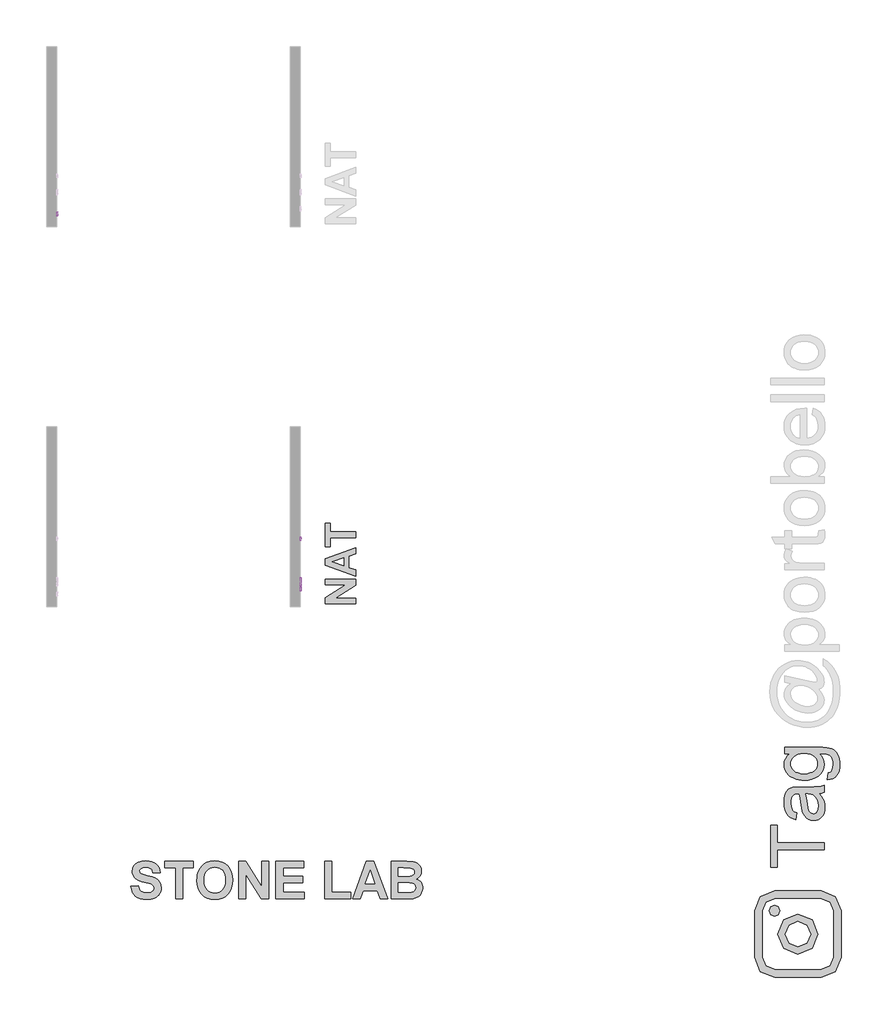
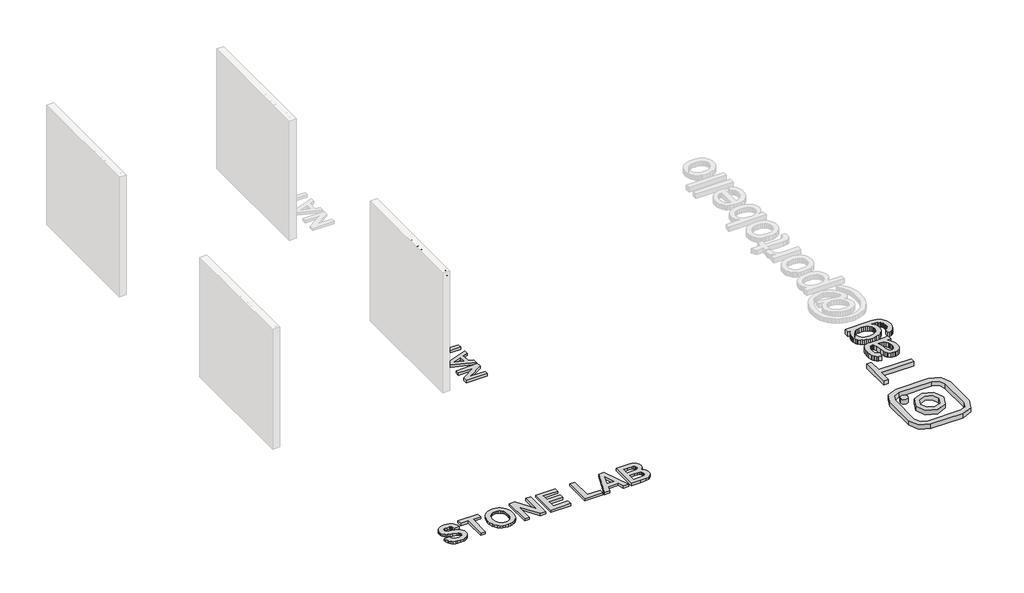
# One storey, part 2 of 9: 8 proxies.
"""IFC4 building model written with IfcOpenShell, lengths in millimetres."""

from ifc_helpers import new_model, si_unit, frame, origin, origin_with_axes, place, context, project, spatial, polyline, outline, extrude, transform, mapped, element, save
from components import generic_models_d67f6705

model = new_model("IFC4")

# Units and contexts
model_context = context("Model", 3, world=origin())
ifc_project = project(units=[si_unit("LENGTHUNIT", "METRE", prefix="MILLI")], contexts=[model_context])

# Site, building, storey
site = spatial("IfcSite", under=ifc_project)
building = spatial("IfcBuilding", under=site)
storey = spatial("IfcBuildingStorey", under=building, Name="PORTOBELLO - SHOWROOM", Elevation=0.0)

# Proxies
placement = place(None, origin())
generic_models_shape = generic_models_d67f6705(model_context)
element("IfcBuildingElementProxy", 1, Name="Blks_Instagram1 : Único", ObjectType="Blks_Instagram1 : Único", at=placement, inside=storey, context=model_context, shape_type="MappedRepresentation", body=[
    mapped(generic_models_shape, transform((-6000.4764951, -12631.2406298, 0.0), x_axis=(-1.0, 0.0, 0.0), y_axis=(0.0, -1.0, 0.0), z_axis=(0.0, 0.0, 1.0))),
])
element("IfcBuildingElementProxy", 2, Name="10mm Arial", ObjectType="10mm Arial", at=placement, inside=storey, context=model_context, shape_type="SweptSolid", body=[
    extrude(outline(polyline([(-7639.686688, 2567.3783476), (-7636.3389619, 2589.5922887), (-7626.2957834, 2606.3983645), (-7610.9612356, 2616.9749719), (-7591.7394013, 2620.5005077), (-7578.5630945, 2618.8450387), (-7566.7479511, 2613.8786317), (-7556.9377646, 2605.9507747), (-7549.7763284, 2595.4109556), (-7545.3985327, 2582.7680777), (-7543.9392674, 2568.5310445), (-7545.4751747, 2554.1039389), (-7550.0828967, 2541.2832514), (-7557.5079817, 2530.7250381), (-7567.4959778, 2523.0853553), (-7579.2099537, 2518.4500422), (-7591.8129777, 2516.9049378), (-7605.1916196, 2518.6125234), (-7617.0742081, 2523.7352802), (-7626.8598691, 2531.81029), (-7633.9477289, 2542.3746346), (-7639.686688, 2567.3783476)]), holes=[polyline([(-7627.1296493, 2567.2557202), (-7624.6188546, 2551.5410277), (-7617.0864708, 2539.5664687), (-7605.7649024, 2531.9880996), (-7591.8865541, 2529.4619766), (-7577.8058707, 2532.0126251), (-7566.4659082, 2539.6645706), (-7558.9887067, 2552.0070115), (-7556.4963062, 2568.6291463), (-7560.7637373, 2589.3531654), (-7573.234937, 2603.0751638), (-7591.6658249, 2607.9434689), (-7605.1732255, 2605.5982212), (-7616.6572751, 2598.562478), (-7624.5115557, 2586.0452931), (-7627.1296493, 2567.2557202)])]), frame((-13466.0063329, 0.0, 0.0), z_axis=(1.0, 0.0, 0.0), x_axis=(0.0, 1.0, 0.0)), (0.0, 0.0, 1.0), 20.0),
    extrude(outline(polyline([(-7484.2933333, 2518.4745677), (-7484.2933333, 2579.6901317), (-7495.2807422, 2579.6901317), (-7495.2807422, 2592.2471704), (-7484.2933333, 2592.2471704), (-7484.2933333, 2599.6783867), (-7482.9689581, 2610.1507609), (-7476.5432859, 2617.6310281), (-7463.8881453, 2620.5005077), (-7452.4347525, 2619.1270815), (-7454.2741625, 2607.3548577), (-7461.509175, 2607.9434689), (-7469.4186379, 2605.8588043), (-7471.7362945, 2598.0842314), (-7471.7362945, 2592.2471704), (-7457.6096259, 2592.2471704), (-7457.6096259, 2579.6901317), (-7471.7362945, 2579.6901317), (-7471.7362945, 2518.4745677), (-7484.2933333, 2518.4745677)])), frame((-13466.0063329, 0.0, 0.0), z_axis=(1.0, 0.0, 0.0), x_axis=(0.0, 1.0, 0.0)), (0.0, 0.0, 1.0), 20.0),
    extrude(outline(polyline([(-7525.1037093, 2518.4745677), (-7525.1037093, 2579.6901317), (-7536.0911182, 2579.6901317), (-7536.0911182, 2592.2471704), (-7525.1037093, 2592.2471704), (-7525.1037093, 2599.6783867), (-7523.7793341, 2610.1507609), (-7517.3536619, 2617.6310281), (-7504.6985213, 2620.5005077), (-7493.2451285, 2619.1270815), (-7495.0845385, 2607.3548577), (-7502.319551, 2607.9434689), (-7510.2290139, 2605.8588043), (-7512.5466705, 2598.0842314), (-7512.5466705, 2592.2471704), (-7498.4200019, 2592.2471704), (-7498.4200019, 2579.6901317), (-7512.5466705, 2579.6901317), (-7512.5466705, 2518.4745677), (-7525.1037093, 2518.4745677)])), frame((-13466.0063329, 0.0, 0.0), z_axis=(1.0, 0.0, 0.0), x_axis=(0.0, 1.0, 0.0)), (0.0, 0.0, 1.0), 20.0),
    extrude(outline(polyline([(-7387.8346741, 2518.4745677), (-7415.22962, 2618.9308778), (-7402.2801738, 2618.9308778), (-7386.3876716, 2552.9083224), (-7381.4825783, 2532.5276599), (-7376.2341285, 2550.5538776), (-7356.3194499, 2618.9308778), (-7337.65557, 2618.9308778), (-7323.1855448, 2569.3649103), (-7312.4188651, 2532.5276599), (-7307.6609246, 2552.3197112), (-7291.6457951, 2618.9308778), (-7278.6718234, 2618.9308778), (-7306.0422439, 2518.4745677), (-7319.4821994, 2518.4745677), (-7343.5907328, 2595.9750413), (-7346.9507217, 2606.790772), (-7350.7276435, 2593.7677493), (-7372.6779359, 2518.4745677), (-7387.8346741, 2518.4745677)])), frame((-13466.0063329, 0.0, 0.0), z_axis=(1.0, 0.0, 0.0), x_axis=(0.0, 1.0, 0.0)), (0.0, 0.0, 1.0), 20.0),
    extrude(outline(polyline([(-7267.6844145, 2518.4745677), (-7267.6844145, 2618.9308778), (-7255.1273757, 2618.9308778), (-7255.1273757, 2581.9955255), (-7245.3355833, 2590.8614816), (-7233.2751852, 2593.8168003), (-7219.1730421, 2590.5917015), (-7210.6136543, 2581.6766944), (-7208.0384803, 2565.1710556), (-7208.0384803, 2518.4745677), (-7220.5955191, 2518.4745677), (-7220.5955191, 2563.8712059), (-7224.5931701, 2577.1149577), (-7235.9239356, 2581.2597615), (-7246.2123687, 2578.4638583), (-7253.0794993, 2570.8854892), (-7255.1273757, 2557.6662629), (-7255.1273757, 2518.4745677), (-7267.6844145, 2518.4745677)])), frame((-13466.0063329, 0.0, 0.0), z_axis=(1.0, 0.0, 0.0), x_axis=(0.0, 1.0, 0.0)), (0.0, 0.0, 1.0), 20.0),
    extrude(outline(polyline([(-13446.0063329, -7178.2155133), (-13446.0063329, -7190.772552), (-13466.0063329, -7190.772552), (-13466.0063329, -7178.2155133), (-13446.0063329, -7178.2155133)])), frame((0.0, 0.0, 2606.373839), z_axis=(0.0, 0.0, 1.0), x_axis=(1.0, 0.0, 0.0)), (0.0, 0.0, 1.0), 12.5570388),
    extrude(outline(polyline([(-13446.0063329, -7178.2155133), (-13446.0063329, -7190.772552), (-13466.0063329, -7190.772552), (-13466.0063329, -7178.2155133), (-13446.0063329, -7178.2155133)])), frame((0.0, 0.0, 2518.4745677), z_axis=(0.0, 0.0, 1.0), x_axis=(1.0, 0.0, 0.0)), (0.0, 0.0, 1.0), 73.7726028),
    extrude(outline(polyline([(-7132.6962477, 2528.9469418), (-7131.1266179, 2518.1066857), (-7140.5198715, 2516.9049378), (-7151.0412966, 2518.9896025), (-7156.2897464, 2524.4587815), (-7157.8103253, 2538.7080774), (-7157.8103253, 2579.6901317), (-7167.2281043, 2579.6901317), (-7167.2281043, 2592.2471704), (-7157.8103253, 2592.2471704), (-7157.8103253, 2610.1752863), (-7145.2532865, 2617.5574517), (-7145.2532865, 2592.2471704), (-7132.6962477, 2592.2471704), (-7132.6962477, 2579.6901317), (-7145.2532865, 2579.6901317), (-7145.2532865, 2539.0759594), (-7144.5910989, 2532.6012363), (-7142.4451206, 2530.3081052), (-7138.1654267, 2529.4619766), (-7132.6962477, 2528.9469418)])), frame((-13466.0063329, 0.0, 0.0), z_axis=(1.0, 0.0, 0.0), x_axis=(0.0, 1.0, 0.0)), (0.0, 0.0, 1.0), 20.0),
    extrude(outline(polyline([(-7068.4885768, 2540.4493855), (-7056.1767927, 2538.8797557), (-7060.6128365, 2529.602998), (-7067.6914992, 2522.6684224), (-7077.2533654, 2518.345809), (-7089.1390195, 2516.9049378), (-7103.8726934, 2519.391207), (-7115.2095902, 2526.8500144), (-7122.4384714, 2538.7969822), (-7124.8480985, 2554.7477324), (-7122.413946, 2571.2349771), (-7115.1114884, 2583.5651553), (-7103.9278757, 2591.253889), (-7089.850258, 2593.8168003), (-7076.2110331, 2591.2600204), (-7065.312529, 2583.5896808), (-7058.1664212, 2571.2840281), (-7055.7843853, 2554.8213088), (-7055.8579617, 2551.4367944), (-7112.2910597, 2551.4367944), (-7110.1174903, 2542.0374095), (-7105.0683099, 2535.1273593), (-7097.7811807, 2530.8783223), (-7088.8937648, 2529.4619766), (-7076.5819807, 2532.0862015), (-7068.4885768, 2540.4493855)]), holes=[polyline([(-7112.2910597, 2563.9938332), (-7068.341424, 2563.9938332), (-7073.3691446, 2575.3736496), (-7080.6899964, 2579.7882335), (-7089.899309, 2581.2597615), (-7105.3626155, 2576.5631347), (-7110.2278549, 2571.0724959), (-7112.2910597, 2563.9938332)])]), frame((-13466.0063329, 0.0, 0.0), z_axis=(1.0, 0.0, 0.0), x_axis=(0.0, 1.0, 0.0)), (0.0, 0.0, 1.0), 20.0),
    extrude(outline(polyline([(-7002.4169705, 2518.4745677), (-7002.4169705, 2618.9308778), (-6980.8836111, 2618.9308778), (-6960.2822193, 2548.1258565), (-6956.1128901, 2533.3370003), (-6951.6247297, 2549.3521298), (-6931.4157454, 2618.9308778), (-6909.8088096, 2618.9308778), (-6909.8088096, 2518.4745677), (-6922.3658484, 2518.4745677), (-6922.3658484, 2606.373839), (-6947.6025532, 2518.4745677), (-6964.5987014, 2518.4745677), (-6989.8599317, 2606.373839), (-6989.8599317, 2518.4745677), (-7002.4169705, 2518.4745677)])), frame((-13466.0063329, 0.0, 0.0), z_axis=(1.0, 0.0, 0.0), x_axis=(0.0, 1.0, 0.0)), (0.0, 0.0, 1.0), 20.0),
    extrude(outline(polyline([(-13446.0063329, -6876.8465828), (-13446.0063329, -6889.4036216), (-13466.0063329, -6889.4036216), (-13466.0063329, -6876.8465828), (-13446.0063329, -6876.8465828)])), frame((0.0, 0.0, 2606.373839), z_axis=(0.0, 0.0, 1.0), x_axis=(1.0, 0.0, 0.0)), (0.0, 0.0, 1.0), 12.5570388),
    extrude(outline(polyline([(-13446.0063329, -6876.8465828), (-13446.0063329, -6889.4036216), (-13466.0063329, -6889.4036216), (-13466.0063329, -6876.8465828), (-13446.0063329, -6876.8465828)])), frame((0.0, 0.0, 2518.4745677), z_axis=(0.0, 0.0, 1.0), x_axis=(1.0, 0.0, 0.0)), (0.0, 0.0, 1.0), 73.7726028),
    extrude(outline(polyline([(-6865.8591739, 2518.4745677), (-6839.0283137, 2555.5815982), (-6864.2895441, 2592.2471704), (-6849.2309077, 2592.2471704), (-6837.0417509, 2574.5643092), (-6831.3273173, 2566.2501761), (-6826.3731731, 2573.0682557), (-6812.4917591, 2592.2471704), (-6797.3840719, 2592.2471704), (-6823.9206265, 2555.5570728), (-6798.3650905, 2518.4745677), (-6813.4482523, 2518.4745677), (-6828.8502452, 2540.792742), (-6831.6461483, 2544.8884949), (-6850.7514866, 2518.4745677), (-6865.8591739, 2518.4745677)])), frame((-13466.0063329, 0.0, 0.0), z_axis=(1.0, 0.0, 0.0), x_axis=(0.0, 1.0, 0.0)), (0.0, 0.0, 1.0), 20.0),
])
element("IfcBuildingElementProxy", 3, Name="10mm Arial", ObjectType="10mm Arial", at=placement, inside=storey, context=model_context, shape_type="SweptSolid", body=[
    extrude(outline(polyline([(-7575.3318643, 2396.0316064), (-7575.3318643, 2383.4745677), (-7641.2563179, 2383.4745677), (-7639.9074172, 2392.1320573), (-7632.2677345, 2405.4616482), (-7616.5346478, 2420.0175125), (-7594.8663983, 2440.9377353), (-7589.4585329, 2455.1625058), (-7594.5720927, 2466.6772122), (-7607.9262091, 2471.373839), (-7621.8444113, 2466.7875768), (-7627.1296493, 2454.1079107), (-7639.686688, 2455.6775406), (-7636.6424645, 2467.8237778), (-7630.0604425, 2476.6958652), (-7620.2839785, 2482.1221247), (-7607.656429, 2483.9308778), (-7594.936909, 2481.9197896), (-7585.1788391, 2475.8865249), (-7578.9708304, 2466.873416), (-7576.9014942, 2455.9227952), (-7579.1333116, 2444.0156813), (-7586.5522652, 2431.7038972), (-7604.5416947, 2414.4992826), (-7618.9871944, 2402.4204904), (-7624.6525772, 2396.0316064), (-7575.3318643, 2396.0316064)])), frame((-13466.0063329, 0.0, 0.0), z_axis=(1.0, 0.0, 0.0), x_axis=(0.0, 1.0, 0.0)), (0.0, 0.0, 1.0), 20.0),
    extrude(outline(polyline([(-7562.7748256, 2432.8933823), (-7559.0837429, 2461.7966444), (-7548.1208594, 2478.4616988), (-7529.8125988, 2483.9308778), (-7515.1463699, 2480.6935163), (-7505.0173523, 2471.3615763), (-7499.1312404, 2456.4991437), (-7496.850372, 2432.8933823), (-7500.5046665, 2404.1127476), (-7511.4307618, 2387.410905), (-7519.6621214, 2383.2814296), (-7529.8125988, 2381.9049378), (-7542.8601469, 2384.2961708), (-7552.7684353, 2391.4698697), (-7560.273228, 2408.4598865), (-7562.7748256, 2432.8933823)]), holes=[polyline([(-7550.2177868, 2432.9179078), (-7548.7462588, 2413.1657104), (-7544.3316749, 2401.7337774), (-7537.7588499, 2396.2799268), (-7529.8125988, 2394.4619766), (-7521.8663477, 2396.2860581), (-7515.2935227, 2401.7583028), (-7510.8789388, 2413.1963672), (-7509.4074108, 2432.9179078), (-7510.8298878, 2452.2255812), (-7515.097319, 2463.746419), (-7521.6578812, 2469.466984), (-7529.9597516, 2471.373839), (-7537.8201636, 2469.6938446), (-7544.1354711, 2464.6538613), (-7548.6972079, 2452.4156536), (-7550.2177868, 2432.9179078)])]), frame((-13466.0063329, 0.0, 0.0), z_axis=(1.0, 0.0, 0.0), x_axis=(0.0, 1.0, 0.0)), (0.0, 0.0, 1.0), 20.0),
    extrude(outline(polyline([(-7490.5718526, 2383.4745677), (-7463.7409925, 2420.5815982), (-7489.0022228, 2457.2471704), (-7473.9435865, 2457.2471704), (-7461.7544297, 2439.5643092), (-7456.039996, 2431.2501761), (-7451.0858518, 2438.0682557), (-7437.2044379, 2457.2471704), (-7422.0967506, 2457.2471704), (-7448.6333052, 2420.5570728), (-7423.0777693, 2383.4745677), (-7438.1609311, 2383.4745677), (-7453.5629239, 2405.792742), (-7456.3588271, 2409.8884949), (-7475.4641654, 2383.4745677), (-7490.5718526, 2383.4745677)])), frame((-13466.0063329, 0.0, 0.0), z_axis=(1.0, 0.0, 0.0), x_axis=(0.0, 1.0, 0.0)), (0.0, 0.0, 1.0), 20.0),
    extrude(outline(polyline([(-7350.8747963, 2396.0316064), (-7350.8747963, 2383.4745677), (-7416.7992499, 2383.4745677), (-7415.4503492, 2392.1320573), (-7407.8106665, 2405.4616482), (-7392.0775798, 2420.0175125), (-7370.4093303, 2440.9377353), (-7365.001465, 2455.1625058), (-7370.1150247, 2466.6772122), (-7383.4691411, 2471.373839), (-7397.3873433, 2466.7875768), (-7402.6725813, 2454.1079107), (-7415.22962, 2455.6775406), (-7412.1853965, 2467.8237778), (-7405.6033745, 2476.6958652), (-7395.8269105, 2482.1221247), (-7383.199361, 2483.9308778), (-7370.479841, 2481.9197896), (-7360.7217711, 2475.8865249), (-7354.5137624, 2466.873416), (-7352.4444262, 2455.9227952), (-7354.6762436, 2444.0156813), (-7362.0951972, 2431.7038972), (-7380.0846268, 2414.4992826), (-7394.5301264, 2402.4204904), (-7400.1955092, 2396.0316064), (-7350.8747963, 2396.0316064)])), frame((-13466.0063329, 0.0, 0.0), z_axis=(1.0, 0.0, 0.0), x_axis=(0.0, 1.0, 0.0)), (0.0, 0.0, 1.0), 20.0),
    extrude(outline(polyline([(-7338.3177576, 2432.8933823), (-7334.6266749, 2461.7966444), (-7323.6637914, 2478.4616988), (-7305.3555308, 2483.9308778), (-7290.6893019, 2480.6935163), (-7280.5602843, 2471.3615763), (-7274.6741724, 2456.4991437), (-7272.393304, 2432.8933823), (-7276.0475985, 2404.1127476), (-7286.9736938, 2387.410905), (-7295.2050534, 2383.2814296), (-7305.3555308, 2381.9049378), (-7318.4030789, 2384.2961708), (-7328.3113673, 2391.4698697), (-7335.81616, 2408.4598865), (-7338.3177576, 2432.8933823)]), holes=[polyline([(-7325.7607188, 2432.9179078), (-7324.2891908, 2413.1657104), (-7319.8746069, 2401.7337774), (-7313.3017819, 2396.2799268), (-7305.3555308, 2394.4619766), (-7297.4092797, 2396.2860581), (-7290.8364547, 2401.7583028), (-7286.4218708, 2413.1963672), (-7284.9503428, 2432.9179078), (-7286.3728199, 2452.2255812), (-7290.640251, 2463.746419), (-7297.2008132, 2469.466984), (-7305.5026836, 2471.373839), (-7313.3630956, 2469.6938446), (-7319.6784032, 2464.6538613), (-7324.2401399, 2452.4156536), (-7325.7607188, 2432.9179078)])]), frame((-13466.0063329, 0.0, 0.0), z_axis=(1.0, 0.0, 0.0), x_axis=(0.0, 1.0, 0.0)), (0.0, 0.0, 1.0), 20.0),
])
element("IfcBuildingElementProxy", 4, Name="10mm Arial", ObjectType="10mm Arial", at=placement, inside=storey, context=model_context, shape_type="SweptSolid", body=[
    extrude(outline(polyline([(-1938.1170582, 2408.5886452), (-1925.5600194, 2410.158275), (-1919.9191621, 2398.1775847), (-1909.2260588, 2394.4619766), (-1899.060253, 2396.8532096), (-1892.168597, 2403.2420935), (-1888.0605814, 2414.1559261), (-1886.2456969, 2428.7240531), (-1886.3192733, 2431.1765997), (-1896.3624517, 2421.6607188), (-1910.1335011, 2418.0064243), (-1921.5838282, 2420.2382417), (-1931.1150375, 2426.933694), (-1937.5437754, 2437.2773095), (-1939.686688, 2450.4536163), (-1937.4395422, 2464.0652501), (-1930.6981046, 2474.7338279), (-1920.5721527, 2481.6316153), (-1908.1714638, 2483.9308778), (-1890.2801361, 2478.682428), (-1877.968352, 2463.7218935), (-1873.7622345, 2435.6157091), (-1877.9560892, 2405.1182917), (-1883.1708165, 2395.1272299), (-1890.4272889, 2387.8401007), (-1899.4128066, 2383.3887285), (-1909.81467, 2381.9049378), (-1920.5506929, 2383.655443), (-1929.116212, 2388.9069585), (-1935.1065572, 2397.3283905), (-1938.1170582, 2408.5886452)]), holes=[polyline([(-1886.3192733, 2450.7479218), (-1887.6743053, 2459.2582587), (-1891.7394013, 2465.8065582), (-1898.0485775, 2469.9820188), (-1906.1358501, 2471.373839), (-1914.5235596, 2469.8747199), (-1921.2435373, 2465.3773625), (-1925.6581213, 2458.4949035), (-1927.1296493, 2449.8404796), (-1925.737829, 2442.0812352), (-1921.5623684, 2435.9222774), (-1915.0079375, 2431.9031666), (-1906.4792066, 2430.563463), (-1891.9969187, 2435.9222774), (-1887.7386846, 2442.3080957), (-1886.3192733, 2450.7479218)])]), frame((-17115.5080774, 0.0, 0.0), z_axis=(1.0, 0.0, 0.0), x_axis=(0.0, 1.0, 0.0)), (0.0, 0.0, 1.0), 20.0),
    extrude(outline(polyline([(-1867.4837151, 2383.4745677), (-1840.6528549, 2420.5815982), (-1865.9140853, 2457.2471704), (-1850.8554489, 2457.2471704), (-1838.6662921, 2439.5643092), (-1832.9518585, 2431.2501761), (-1827.9977143, 2438.0682557), (-1814.1163003, 2457.2471704), (-1799.0086131, 2457.2471704), (-1825.5451677, 2420.5570728), (-1799.9896317, 2383.4745677), (-1815.0727935, 2383.4745677), (-1830.4747864, 2405.792742), (-1833.2706896, 2409.8884949), (-1852.3760278, 2383.4745677), (-1867.4837151, 2383.4745677)])), frame((-17115.5080774, 0.0, 0.0), z_axis=(1.0, 0.0, 0.0), x_axis=(0.0, 1.0, 0.0)), (0.0, 0.0, 1.0), 20.0),
    extrude(outline(polyline([(-1792.1414825, 2410.158275), (-1779.5844437, 2411.7279049), (-1772.6559995, 2398.5086785), (-1759.6942905, 2394.4619766), (-1751.0858518, 2395.8537968), (-1744.4394504, 2400.0292574), (-1738.7740677, 2413.8125695), (-1744.3903995, 2426.798804), (-1758.6642209, 2431.9368892), (-1767.4688633, 2430.563463), (-1766.0709118, 2443.1205018), (-1764.0598235, 2442.973349), (-1749.8105276, 2446.5785926), (-1745.0648498, 2451.152592), (-1743.4829573, 2457.6641034), (-1748.0692195, 2467.4865526), (-1759.8904942, 2471.373839), (-1771.8589218, 2467.4497644), (-1778.0148139, 2455.6775406), (-1790.5718526, 2457.2471704), (-1786.8746386, 2468.5227536), (-1780.2956822, 2476.9411199), (-1771.2948361, 2482.1834383), (-1760.3319526, 2483.9308778), (-1745.1874772, 2480.4850498), (-1734.5924757, 2471.0672707), (-1730.9259185, 2458.3998673), (-1734.4085347, 2446.8238472), (-1744.7092306, 2438.5097141), (-1731.0240204, 2429.9258009), (-1726.217029, 2413.5918403), (-1728.6205247, 2401.3536326), (-1735.8310118, 2391.1265132), (-1746.7141875, 2384.2103317), (-1760.1357489, 2381.9049378), (-1772.2758547, 2383.8731065), (-1782.1596177, 2389.7776125), (-1789.0328796, 2398.8091155), (-1792.1414825, 2410.158275)])), frame((-17115.5080774, 0.0, 0.0), z_axis=(1.0, 0.0, 0.0), x_axis=(0.0, 1.0, 0.0)), (0.0, 0.0, 1.0), 20.0),
    extrude(outline(polyline([(-1715.22962, 2469.8042092), (-1715.22962, 2482.361248), (-1649.3051665, 2482.361248), (-1649.3051665, 2472.2077049), (-1668.0058346, 2445.1929037), (-1682.3164442, 2410.7714117), (-1686.9762828, 2383.4745677), (-1699.5333216, 2383.4745677), (-1694.5423892, 2411.8014813), (-1680.8449162, 2443.8194776), (-1661.8622053, 2469.8042092), (-1715.22962, 2469.8042092)])), frame((-17115.5080774, 0.0, 0.0), z_axis=(1.0, 0.0, 0.0), x_axis=(0.0, 1.0, 0.0)), (0.0, 0.0, 1.0), 20.0),
])
element("IfcBuildingElementProxy", 5, Name="10mm Arial Narrow", ObjectType="10mm Arial Narrow", at=placement, inside=storey, context=model_context, shape_type="SweptSolid", body=[
    extrude(outline(polyline([(-6733.0722036, 2518.4745677), (-6733.0722036, 2615.7916181), (-6702.8323036, 2615.7916181), (-6687.0869542, 2613.9767336), (-6676.0014434, 2604.8164719), (-6671.8566396, 2588.3721467), (-6673.5826193, 2576.7041561), (-6678.7605584, 2567.402873), (-6688.1752718, 2561.314426), (-6702.6115744, 2559.2849437), (-6723.6544246, 2559.2849437), (-6723.6544246, 2518.4745677), (-6733.0722036, 2518.4745677)]), holes=[polyline([(-6723.6544246, 2570.2723526), (-6701.4588775, 2570.2723526), (-6686.130461, 2574.6501483), (-6681.2744187, 2587.857112), (-6683.6656517, 2597.6795612), (-6689.441399, 2603.2836303), (-6701.6796067, 2604.8042092), (-6723.6544246, 2604.8042092), (-6723.6544246, 2570.2723526)])]), frame((-13466.0063329, 0.0, 0.0), z_axis=(1.0, 0.0, 0.0), x_axis=(0.0, 1.0, 0.0)), (0.0, 0.0, 1.0), 20.0),
    extrude(outline(polyline([(-6664.0084904, 2553.7912392), (-6662.1200295, 2569.8216971), (-6656.4546468, 2581.3701261), (-6647.895259, 2588.350687), (-6637.324783, 2590.6775406), (-6626.8769344, 2588.350687), (-6618.2930211, 2581.3701261), (-6612.554062, 2570.0056381), (-6610.6410756, 2554.5270032), (-6612.5203395, 2537.9447223), (-6618.1581311, 2526.2123523), (-6626.7083218, 2519.2317914), (-6637.324783, 2516.9049378), (-6647.8186169, 2519.2379228), (-6656.3933331, 2526.2368778), (-6662.1047011, 2537.7914381), (-6664.0084904, 2553.7912392)]), holes=[polyline([(-6654.5907113, 2553.8157647), (-6653.3307155, 2541.6879216), (-6649.550728, 2533.1162711), (-6643.906805, 2528.0211054), (-6637.0550029, 2526.3227169), (-6630.5618857, 2528.0364339), (-6625.0620498, 2533.1775847), (-6621.3096535, 2541.7645636), (-6620.0588547, 2553.8157647), (-6621.3188505, 2565.9068196), (-6625.098838, 2574.4662073), (-6630.742761, 2579.561373), (-6637.5945631, 2581.2597615), (-6644.1336656, 2579.5521759), (-6649.6243044, 2574.4294191), (-6653.3491096, 2565.8608343), (-6654.5907113, 2553.8157647)])]), frame((-13466.0063329, 0.0, 0.0), z_axis=(1.0, 0.0, 0.0), x_axis=(0.0, 1.0, 0.0)), (0.0, 0.0, 1.0), 20.0),
    extrude(outline(polyline([(-6541.5773624, 2526.3227169), (-6540.0077326, 2516.9049378), (-6547.1201178, 2516.9049378), (-6555.1154198, 2518.9528143), (-6559.2847491, 2524.5568833), (-6560.4129206, 2538.7080774), (-6560.4129206, 2579.6901317), (-6568.2610698, 2579.6901317), (-6568.2610698, 2582.8293914), (-6569.8306996, 2578.1205018), (-6577.1392886, 2579.6901317), (-6583.0131378, 2577.4460515), (-6586.7532714, 2571.1797948), (-6588.6662578, 2556.2928368), (-6588.6662578, 2518.4745677), (-6598.0840369, 2518.4745677), (-6598.0840369, 2589.1079107), (-6588.6662578, 2589.1079107), (-6588.6662578, 2579.7391826), (-6582.6329931, 2588.5192995), (-6576.4525756, 2590.6775406), (-6568.2610698, 2589.1079107), (-6560.4129206, 2589.1079107), (-6560.4129206, 2604.8042092), (-6550.9951415, 2612.6523584), (-6550.9951415, 2589.1079107), (-6541.5773624, 2589.1079107), (-6541.5773624, 2579.6901317), (-6550.9951415, 2579.6901317), (-6550.9951415, 2536.5498364), (-6550.1612756, 2528.8243145), (-6545.6976408, 2526.3227169), (-6541.5773624, 2526.3227169)])), frame((-13466.0063329, 0.0, 0.0), z_axis=(1.0, 0.0, 0.0), x_axis=(0.0, 1.0, 0.0)), (0.0, 0.0, 1.0), 20.0),
    extrude(outline(polyline([(-6535.298843, 2553.7912392), (-6533.4103821, 2569.8216971), (-6527.7449994, 2581.3701261), (-6519.1856116, 2588.350687), (-6508.6151356, 2590.6775406), (-6498.167287, 2588.350687), (-6489.5833738, 2581.3701261), (-6483.8444146, 2570.0056381), (-6481.9314283, 2554.5270032), (-6483.8106921, 2537.9447223), (-6489.4484837, 2526.2123523), (-6497.9986744, 2519.2317914), (-6508.6151356, 2516.9049378), (-6519.1089696, 2519.2379228), (-6527.6836857, 2526.2368778), (-6533.3950537, 2537.7914381), (-6535.298843, 2553.7912392)]), holes=[polyline([(-6525.8810639, 2553.8157647), (-6524.6210681, 2541.6879216), (-6520.8410806, 2533.1162711), (-6515.1971577, 2528.0211054), (-6508.3453555, 2526.3227169), (-6501.8522383, 2528.0364339), (-6496.3524025, 2533.1775847), (-6492.6000061, 2541.7645636), (-6491.3492073, 2553.8157647), (-6492.6092032, 2565.9068196), (-6496.3891907, 2574.4662073), (-6502.0331136, 2579.561373), (-6508.8849158, 2581.2597615), (-6515.4240182, 2579.5521759), (-6520.914657, 2574.4294191), (-6524.6394622, 2565.8608343), (-6525.8810639, 2553.8157647)])]), frame((-13466.0063329, 0.0, 0.0), z_axis=(1.0, 0.0, 0.0), x_axis=(0.0, 1.0, 0.0)), (0.0, 0.0, 1.0), 20.0),
    extrude(outline(polyline([(-6459.9566104, 2518.4745677), (-6469.3743895, 2518.4745677), (-6469.3743895, 2615.7916181), (-6459.9566104, 2615.7916181), (-6459.9566104, 2581.5785926), (-6452.807437, 2588.4211977), (-6443.9169554, 2590.6775406), (-6431.4702813, 2586.6185759), (-6422.5062233, 2574.3190545), (-6419.1462344, 2554.3307995), (-6421.0132355, 2538.4321659), (-6426.6142389, 2526.641548), (-6434.7045771, 2519.3390904), (-6444.0395828, 2516.9049378), (-6453.0649544, 2519.4310609), (-6459.9566104, 2526.9358536), (-6459.9566104, 2518.4745677)]), holes=[polyline([(-6459.9566104, 2554.3307995), (-6457.9455222, 2537.6657451), (-6452.255614, 2529.2289847), (-6444.0886337, 2526.3227169), (-6438.3466089, 2528.0517623), (-6433.2851658, 2533.2388984), (-6428.5640135, 2553.938392), (-6433.1134875, 2574.6501483), (-6438.181062, 2579.6073582), (-6444.2848374, 2581.2597615), (-6450.0605847, 2579.5307161), (-6455.1741445, 2574.34358), (-6459.9566104, 2554.3307995)])]), frame((-13466.0063329, 0.0, 0.0), z_axis=(1.0, 0.0, 0.0), x_axis=(0.0, 1.0, 0.0)), (0.0, 0.0, 1.0), 20.0),
    extrude(outline(polyline([(-6368.9180793, 2540.4493855), (-6359.5003003, 2538.8797557), (-6368.6973501, 2522.4476932), (-6385.1784635, 2516.9049378), (-6396.3804703, 2519.2379228), (-6405.2157695, 2526.2368778), (-6410.9547287, 2537.6442853), (-6412.867715, 2553.202628), (-6410.9455316, 2569.3066623), (-6405.1789813, 2581.0758205), (-6396.4693751, 2588.2771106), (-6385.7180238, 2590.6775406), (-6375.3958681, 2588.359884), (-6366.9437793, 2581.4069143), (-6361.3059877, 2570.0638861), (-6359.4267239, 2554.5760541), (-6359.5003003, 2551.4367944), (-6403.449936, 2551.4367944), (-6397.6496632, 2532.6502872), (-6391.9199011, 2527.9046095), (-6385.0558362, 2526.3227169), (-6375.2211242, 2529.854384), (-6368.9180793, 2540.4493855)]), holes=[polyline([(-6402.8122738, 2560.8545735), (-6368.9180793, 2560.8545735), (-6373.0383577, 2574.6378856), (-6378.6669522, 2579.6042925), (-6385.6444474, 2581.2597615), (-6397.4411967, 2575.7415316), (-6402.8122738, 2560.8545735)])]), frame((-13466.0063329, 0.0, 0.0), z_axis=(1.0, 0.0, 0.0), x_axis=(0.0, 1.0, 0.0)), (0.0, 0.0, 1.0), 20.0),
    extrude(outline(polyline([(-13446.0063329, -6337.5254824), (-13446.0063329, -6346.9432615), (-13466.0063329, -6346.9432615), (-13466.0063329, -6337.5254824), (-13446.0063329, -6337.5254824)])), frame((0.0, 0.0, 2518.4745677), z_axis=(0.0, 0.0, 1.0), x_axis=(1.0, 0.0, 0.0)), (0.0, 0.0, 1.0), 97.3170505),
    extrude(outline(polyline([(-13446.0063329, -6312.4114049), (-13446.0063329, -6321.829184), (-13466.0063329, -6321.829184), (-13466.0063329, -6312.4114049), (-13446.0063329, -6312.4114049)])), frame((0.0, 0.0, 2518.4745677), z_axis=(0.0, 0.0, 1.0), x_axis=(1.0, 0.0, 0.0)), (0.0, 0.0, 1.0), 97.3170505),
    extrude(outline(polyline([(-6301.423996, 2553.7912392), (-6299.535535, 2569.8216971), (-6293.8701523, 2581.3701261), (-6285.3107646, 2588.350687), (-6274.7402886, 2590.6775406), (-6264.2924399, 2588.350687), (-6255.7085267, 2581.3701261), (-6249.9695676, 2570.0056381), (-6248.0565812, 2554.5270032), (-6249.935845, 2537.9447223), (-6255.5736366, 2526.2123523), (-6264.1238273, 2519.2317914), (-6274.7402886, 2516.9049378), (-6285.2341225, 2519.2379228), (-6293.8088387, 2526.2368778), (-6299.5202066, 2537.7914381), (-6301.423996, 2553.7912392)]), holes=[polyline([(-6292.0062169, 2553.8157647), (-6290.746221, 2541.6879216), (-6286.9662335, 2533.1162711), (-6281.3223106, 2528.0211054), (-6274.4705084, 2526.3227169), (-6267.9773912, 2528.0364339), (-6262.4775554, 2533.1775847), (-6258.725159, 2541.7645636), (-6257.4743603, 2553.8157647), (-6258.7343561, 2565.9068196), (-6262.5143436, 2574.4662073), (-6268.1582665, 2579.561373), (-6275.0100687, 2581.2597615), (-6281.5491712, 2579.5521759), (-6287.0398099, 2574.4294191), (-6290.7646151, 2565.8608343), (-6292.0062169, 2553.8157647)])]), frame((-13466.0063329, 0.0, 0.0), z_axis=(1.0, 0.0, 0.0), x_axis=(0.0, 1.0, 0.0)), (0.0, 0.0, 1.0), 20.0),
])
element("IfcBuildingElementProxy", 6, Name="450mm Arial", ObjectType="450mm Arial", at=placement, inside=storey, context=model_context, shape_type="SweptSolid", body=[
    extrude(outline(polyline([(-12630.352049, -7680.8828362), (-13089.468779, -7680.8828362), (-13089.468779, -7589.2189057), (-12780.4303848, -7396.6677176), (-13089.468779, -7396.6677176), (-13089.468779, -7309.2169119), (-12630.352049, -7309.2169119), (-12630.352049, -7403.7275483), (-12934.8357137, -7593.4320305), (-12630.352049, -7593.4320305), (-12630.352049, -7680.8828362)])), origin_with_axes(), (0.0, 0.0, 1.0), 50.0),
    extrude(outline(polyline([(-12630.352049, -6835.5250476), (-12630.352049, -6927.4167146), (-12732.377989, -6963.3990773), (-12732.377989, -7136.7065334), (-12630.352049, -7172.2334233), (-12630.352049, -7265.491509), (-13089.468779, -7098.1052012), (-13089.468779, -7004.7332472), (-12630.352049, -6835.5250476)]), holes=[polyline([(-12812.5412276, -6991.4106635), (-12980.1552718, -7050.5082783), (-12812.5412276, -7108.8088155), (-12812.5412276, -6991.4106635)])]), origin_with_axes(), (0.0, 0.0, 1.0), 50.0),
    extrude(outline(polyline([(-12630.352049, -6689.7737048), (-13009.3055404, -6689.7737048), (-13009.3055404, -6820.9499133), (-13089.468779, -6820.9499133), (-13089.468779, -6471.1466905), (-13009.3055404, -6471.1466905), (-13009.3055404, -6602.3228991), (-12630.352049, -6602.3228991), (-12630.352049, -6689.7737048)])), origin_with_axes(), (0.0, 0.0, 1.0), 50.0),
])
element("IfcBuildingElementProxy", 7, Name="550mm Arial", ObjectType="550mm Arial", at=placement, inside=storey, context=model_context, shape_type="SweptSolid", body=[
    extrude(outline(polyline([(-16000.6484668, -11915.6397445), (-15893.7641487, -11906.732718), (-15887.2926373, -11932.462195), (-15878.1768523, -11954.5383994), (-15866.4167939, -11972.9613311), (-15852.012462, -11987.7309903), (-15834.9203652, -11999.0561354), (-15815.0970122, -12007.1455247), (-15792.5424031, -12011.9991583), (-15767.2565378, -12013.6170361), (-15740.6833289, -12012.186171), (-15717.6068237, -12007.8935757), (-15698.0270222, -12000.7392502), (-15681.9439246, -11990.7231945), (-15669.401022, -11978.7935199), (-15660.4418059, -11965.8983375), (-15655.0662762, -11952.0376473), (-15653.274433, -11937.2114494), (-15656.2492407, -11919.0320691), (-15665.1736637, -11903.7405138), (-15681.5438042, -11890.8148875), (-15706.8557643, -11879.7332939), (-15799.5445089, -11855.9348325), (-15842.5661428, -11844.3226446), (-15878.6639553, -11831.3361304), (-15907.8379464, -11816.9752898), (-15930.0881162, -11801.2401228), (-15953.1646214, -11776.876274), (-15969.6478394, -11749.9899273), (-15979.5377702, -11720.581083), (-15982.8344138, -11688.6497409), (-15976.7804192, -11647.315571), (-15958.6184355, -11608.7648469), (-15945.170913, -11591.2900263), (-15929.044324, -11576.0245659), (-15910.2386684, -11562.9684655), (-15888.7539463, -11552.1217252), (-15838.4083707, -11537.5086348), (-15778.6686656, -11532.6376047), (-15729.2494555, -11535.6733003), (-15686.3452482, -11544.7803869), (-15649.9560437, -11559.9588647), (-15620.081842, -11581.2087336), (-15596.6269622, -11607.5209946), (-15579.4957232, -11637.8866484), (-15568.6881251, -11672.3056952), (-15564.2041679, -11710.7781349), (-15671.088486, -11710.7781349), (-15682.9007341, -11674.0540471), (-15692.0295664, -11660.1933569), (-15703.306871, -11649.3335692), (-15717.2023542, -11641.1441498), (-15734.1857226, -11635.2945645), (-15777.416115, -11630.6148963), (-15822.9254535, -11635.5903056), (-15841.5049541, -11641.8095673), (-15857.3010089, -11650.5165336), (-15871.287824, -11665.4775547), (-15875.9500957, -11684.7529168), (-15871.7053409, -11702.9496936), (-15858.9710764, -11718.2934385), (-15844.3362404, -11727.2048141), (-15822.0034371, -11736.2640603), (-15754.2439288, -11754.8261644), (-15681.926528, -11774.1363195), (-15631.2852113, -11794.3510945), (-15595.7962776, -11818.8280209), (-15568.9360258, -11850.9246301), (-15559.0721898, -11869.9303458), (-15552.0265926, -11891.0410424), (-15546.3901149, -11939.5773783), (-15548.0558332, -11963.1322882), (-15553.0529883, -11985.9217506), (-15561.3815799, -12007.9457653), (-15573.0416083, -12029.2043325), (-15587.7503796, -12048.7406426), (-15605.2252002, -12065.5978861), (-15625.46607, -12079.7760631), (-15648.472989, -12091.2751735), (-15674.3633839, -12100.1648035), (-15703.2546814, -12106.5145391), (-15770.0399836, -12111.5943277), (-15819.9854389, -12108.4673003), (-15863.7725204, -12099.0862182), (-15901.4012281, -12083.4510813), (-15932.871562, -12061.5618897), (-15958.4009788, -12033.6795914), (-15978.2069352, -12000.0651345), (-15992.2894312, -11960.7185188), (-16000.6484668, -11915.6397445)])), origin_with_axes(), (0.0, 0.0, 1.0), 50.0),
    extrude(outline(polyline([(-15332.6214787, -12102.6873012), (-15332.6214787, -11639.5219228), (-15492.9479559, -11639.5219228), (-15492.9479559, -11541.5446312), (-15065.4106835, -11541.5446312), (-15065.4106835, -11639.5219228), (-15225.7371606, -11639.5219228), (-15225.7371606, -12102.6873012), (-15332.6214787, -12102.6873012)])), origin_with_axes(), (0.0, 0.0, 1.0), 50.0),
    extrude(outline(polyline([(-15011.9685245, -11825.5952734), (-15010.3941379, -11784.5220516), (-15005.6709784, -11746.8933439), (-14997.7990458, -11712.7091504), (-14986.7783401, -11681.969471), (-14964.5629635, -11641.4181452), (-14935.4933516, -11605.2159535), (-14901.4483303, -11575.5896525), (-14864.3067256, -11554.7659987), (-14837.5682496, -11545.0848263), (-14808.8465684, -11538.1697032), (-14745.4535907, -11532.6376047), (-14687.610108, -11537.4346996), (-14635.8554129, -11551.8259841), (-14590.1895056, -11575.8114583), (-14550.6123858, -11609.3911222), (-14518.6462507, -11651.5124853), (-14495.813297, -11701.1230573), (-14482.1135247, -11758.2228381), (-14477.546934, -11822.8118277), (-14482.0787317, -11886.9615547), (-14495.6741247, -11943.7177539), (-14518.333113, -11993.0804252), (-14550.0556967, -12035.0495687), (-14589.3718684, -12068.5379007), (-14634.8116208, -12092.4581379), (-14686.3749539, -12106.8102803), (-14744.0618678, -12111.5943277), (-14802.3576604, -12106.8320259), (-14854.355907, -12092.5451206), (-14900.0566074, -12068.7336118), (-14939.4597618, -12035.3974994), (-14971.1823455, -11993.7110496), (-14993.8413338, -11944.8485287), (-15007.4367268, -11888.8099367), (-15011.9685245, -11825.5952734)]), holes=[polyline([(-14905.0842064, -11821.6984493), (-14902.2442218, -11866.0857113), (-14893.7242683, -11904.7495129), (-14879.5243456, -11937.6898541), (-14859.6444539, -11964.9067349), (-14835.3893334, -11986.2174917), (-14808.0637243, -12001.4394608), (-14777.6676265, -12010.5726423), (-14744.2010401, -12013.6170361), (-14710.7692467, -12010.594388), (-14680.4775282, -12001.5264435), (-14653.3258844, -11986.4132027), (-14629.3143154, -11965.2546656), (-14609.6779752, -11938.0508322), (-14595.6520179, -11904.8017025), (-14587.2364435, -11865.5072765), (-14584.4312521, -11820.1675542), (-14587.1625083, -11775.4584563), (-14595.3562768, -11736.8033529), (-14609.0125577, -11704.2022442), (-14628.1313509, -11677.65513), (-14651.7732435, -11657.0750278), (-14678.9988226, -11642.3749547), (-14709.8080881, -11633.5549109), (-14744.2010401, -11630.6148963), (-14778.6287851, -11633.589704), (-14809.5424298, -11642.514127), (-14836.9419743, -11657.3881654), (-14860.8274184, -11678.2118192), (-14880.1897631, -11705.0285797), (-14894.0200094, -11737.8819382), (-14902.3181571, -11776.7718947), (-14905.0842064, -11821.6984493)])]), origin_with_axes(), (0.0, 0.0, 1.0), 50.0),
    extrude(outline(polyline([(-14388.4766689, -12102.6873012), (-14388.4766689, -11541.5446312), (-14276.4429761, -11541.5446312), (-14041.1026351, -11919.2582241), (-14041.1026351, -11541.5446312), (-13934.218317, -11541.5446312), (-13934.218317, -12102.6873012), (-14049.7313171, -12102.6873012), (-14281.5923508, -11730.5405999), (-14281.5923508, -12102.6873012), (-14388.4766689, -12102.6873012)])), origin_with_axes(), (0.0, 0.0, 1.0), 50.0),
    extrude(outline(polyline([(-13827.333999, -12102.6873012), (-13827.333999, -11541.5446312), (-13408.7037531, -11541.5446312), (-13408.7037531, -11639.5219228), (-13720.4496809, -11639.5219228), (-13720.4496809, -11764.2202939), (-13426.5178061, -11764.2202939), (-13426.5178061, -11862.1975855), (-13720.4496809, -11862.1975855), (-13720.4496809, -12004.7100096), (-13399.7967266, -12004.7100096), (-13399.7967266, -12102.6873012), (-13827.333999, -12102.6873012)])), origin_with_axes(), (0.0, 0.0, 1.0), 50.0),
    extrude(outline(polyline([(-13096.9578253, -12102.6873012), (-13096.9578253, -11541.5446312), (-12990.0735072, -11541.5446312), (-12990.0735072, -12004.7100096), (-12705.048659, -12004.7100096), (-12705.048659, -12102.6873012), (-13096.9578253, -12102.6873012)])), origin_with_axes(), (0.0, 0.0, 1.0), 50.0),
    extrude(outline(polyline([(-12152.8130155, -12102.6873012), (-12265.1250529, -12102.6873012), (-12309.1034963, -11977.9889301), (-12520.9237204, -11977.9889301), (-12564.3454746, -12102.6873012), (-12678.3275795, -12102.6873012), (-12473.7443144, -11541.5446312), (-12359.6230373, -11541.5446312), (-12152.8130155, -12102.6873012)]), holes=[polyline([(-12343.3398794, -11880.0116385), (-12415.5702975, -11675.1500288), (-12486.8265096, -11880.0116385), (-12343.3398794, -11880.0116385)])]), origin_with_axes(), (0.0, 0.0, 1.0), 50.0),
    extrude(outline(polyline([(-12099.3708565, -11541.5446312), (-11869.0407179, -11541.5446312), (-11809.3879954, -11542.9363541), (-11767.0970161, -11547.1115228), (-11735.2613549, -11555.7228082), (-11706.9745871, -11570.4228812), (-11682.6716261, -11591.0899662), (-11662.7873853, -11617.6022873), (-11649.5312248, -11648.8290696), (-11645.1125046, -11683.6395385), (-11650.3836551, -11721.5639873), (-11666.1971064, -11756.2874734), (-11691.0567566, -11785.2701026), (-11723.4665034, -11805.9719807), (-11701.6338505, -11814.7224383), (-11682.4802642, -11826.0823764), (-11666.0057445, -11840.051795), (-11652.2102913, -11856.6306939), (-11641.3113615, -11875.3058755), (-11633.5264115, -11895.5641418), (-11628.8554416, -11917.405493), (-11627.2984516, -11940.8299289), (-11631.7693614, -11978.4238435), (-11645.1820907, -12014.9391729), (-11666.3362787, -12047.2967301), (-11694.0315642, -12072.4173283), (-11728.5984816, -12089.7964679), (-11770.3675649, -12098.9296494), (-11907.591442, -12102.6873012), (-12099.3708565, -12102.6873012), (-12099.3708565, -11541.5446312)]), holes=[polyline([(-11992.4865384, -11639.5219228), (-11992.4865384, -11764.2202939), (-11910.9315769, -11764.2202939), (-11820.469589, -11762.4110541), (-11791.9914593, -11755.9047496), (-11770.2979787, -11743.066106), (-11756.5721117, -11724.5213984), (-11751.9968227, -11700.8969023), (-11755.9458364, -11678.2988019), (-11767.7928775, -11660.32818), (-11787.3987738, -11647.7504844), (-11814.6243528, -11641.3311626), (-11920.9519818, -11639.5219228), (-11992.4865384, -11639.5219228)]), polyline([(-11992.4865384, -11862.1975855), (-11992.4865384, -12004.7100096), (-11879.4786396, -12004.7100096), (-11795.6969215, -12001.3698747), (-11770.9590471, -11993.9067607), (-11751.3009612, -11980.1461006), (-11738.4623176, -11960.366239), (-11734.1827697, -11934.8455204), (-11737.4881115, -11912.7171265), (-11747.4041371, -11894.207212), (-11763.5481227, -11879.768087), (-11785.5373444, -11869.8520614), (-11825.0622745, -11864.1112045), (-11893.8133854, -11862.1975855), (-11992.4865384, -11862.1975855)])]), origin_with_axes(), (0.0, 0.0, 1.0), 50.0),
])
element("IfcBuildingElementProxy", 8, Name="80mm Arial", ObjectType="80mm Arial", at=placement, inside=storey, context=model_context, shape_type="SweptSolid", body=[
    extrude(outline(polyline([(-5608.7635104, -11363.1133966), (-6308.2286214, -11363.1133966), (-6308.2286214, -11625.4128133), (-6408.1522087, -11625.4128133), (-6408.1522087, -11000.8903927), (-6308.2286214, -11000.8903927), (-6308.2286214, -11263.1898093), (-5608.7635104, -11263.1898093), (-5608.7635104, -11363.1133966)])), origin_with_axes(), (0.0, 0.0, 1.0), 100.0),
    extrude(outline(polyline([(-5683.7062009, -10526.2533531), (-5642.7707078, -10573.9951647), (-5627.6089623, -10598.3966706), (-5615.9845509, -10623.1519099), (-5601.2009342, -10674.8457774), (-5596.273062, -10730.198956), (-5599.2371039, -10774.6900796), (-5608.1292298, -10813.7044344), (-5622.9494396, -10847.2420202), (-5643.6977333, -10875.3028372), (-5669.0567589, -10897.4599656), (-5697.7091645, -10913.286486), (-5729.6549501, -10922.7823982), (-5764.8941155, -10925.9477022), (-5806.3175167, -10921.1662025), (-5843.9352344, -10906.8217031), (-5876.1371717, -10884.6950689), (-5901.3132318, -10856.5671646), (-5920.3416493, -10823.511388), (-5934.1006589, -10786.6011371), (-5949.1282296, -10700.1438145), (-5964.9364534, -10597.9758498), (-5983.4769627, -10526.8388428), (-6005.725574, -10526.2533531), (-6029.9502132, -10527.9732293), (-6050.3203781, -10533.1328579), (-6066.8360687, -10541.7322388), (-6079.4972849, -10553.7713722), (-6092.1341058, -10574.5806544), (-6101.1604064, -10599.9274824), (-6106.5761867, -10629.811856), (-6108.3814469, -10664.2337754), (-6103.5755517, -10723.7585686), (-6097.5681827, -10746.7878328), (-6089.1578661, -10765.3283422), (-6077.6859259, -10780.5632739), (-6062.4936862, -10793.6758052), (-6043.5811469, -10804.6659361), (-6020.948308, -10813.5336665), (-6033.4387564, -10913.4572538), (-6088.0844682, -10896.1121194), (-6111.0161508, -10884.237655), (-6131.0203846, -10870.2285925), (-6148.4996938, -10853.4811456), (-6163.8566025, -10833.3915279), (-6177.0911108, -10809.9597394), (-6188.2032187, -10783.1857802), (-6203.2795803, -10721.7825406), (-6208.3050342, -10651.3530004), (-6203.8650701, -10583.8021183), (-6190.5451778, -10530.2541998), (-6170.5165486, -10489.8798011), (-6145.9503737, -10461.8494784), (-6115.5780919, -10443.2601783), (-6078.1311421, -10431.2088472), (-6043.5872457, -10427.5495361), (-5990.6980032, -10426.3297658), (-5866.3790089, -10426.3297658), (-5758.087797, -10425.0612046), (-5692.7812923, -10421.2555211), (-5649.8697713, -10413.7417357), (-5608.7635104, -10401.3488689), (-5608.7635104, -10501.2724562), (-5643.50257, -10517.2758433), (-5683.7062009, -10526.2533531)]), holes=[polyline([(-5883.5533755, -10526.2533531), (-5866.9157078, -10593.3895133), (-5852.9127442, -10687.4582029), (-5845.2525864, -10739.2984429), (-5836.7141939, -10773.4276173), (-5825.6386791, -10795.7982056), (-5810.3671543, -10812.362687), (-5792.070599, -10822.608758), (-5771.9199928, -10826.0241149), (-5756.3923162, -10824.1639652), (-5742.206387, -10818.5835158), (-5729.3622052, -10809.2827669), (-5717.8597707, -10796.2617183), (-5708.3821551, -10779.6423473), (-5701.6124296, -10759.5466307), (-5696.1966493, -10708.9261611), (-5702.173524, -10655.2562656), (-5709.6446174, -10630.7632769), (-5720.1041482, -10607.8315943), (-5746.524374, -10569.3844327), (-5777.9700537, -10542.6470666), (-5810.3671543, -10530.7908988), (-5855.2547033, -10526.8388428), (-5883.5533755, -10526.2533531)])]), origin_with_axes(), (0.0, 0.0, 1.0), 100.0),
    extrude(outline(polyline([(-5558.8017168, -10313.9157301), (-5546.3112683, -10213.9921428), (-5529.4784375, -10209.7717374), (-5515.0851473, -10202.9654188), (-5503.1313979, -10193.5731871), (-5493.6171891, -10181.5950422), (-5483.8834217, -10162.2128913), (-5476.9307307, -10139.5861513), (-5471.3685779, -10084.5989038), (-5472.9420816, -10053.3971781), (-5477.6625929, -10025.9523452), (-5485.5301117, -10002.264405), (-5496.544638, -9982.3333574), (-5510.4012292, -9965.7444806), (-5526.7949427, -9952.0830526), (-5545.7257786, -9941.3490735), (-5567.1937368, -9933.5425433), (-5610.178444, -9928.1267629), (-5683.7062009, -9926.7118293), (-5650.9187738, -9959.9627691), (-5627.499183, -9997.0681832), (-5613.4474286, -10038.0280717), (-5608.7635104, -10082.8424345), (-5614.2158839, -10137.6284198), (-5630.5730043, -10185.8642384), (-5642.8408446, -10207.5258352), (-5657.8348717, -10227.5498902), (-5696.001486, -10262.6853753), (-5741.7916651, -10290.5632267), (-5791.9242266, -10310.4759777), (-5846.3991705, -10322.4236283), (-5905.2164969, -10326.4061785), (-5946.3654498, -10324.6192149), (-5985.892108, -10319.2583242), (-6023.7964718, -10310.3235064), (-6060.0785409, -10297.8147614), (-6093.5307428, -10281.9211537), (-6122.9455049, -10262.8317477), (-6148.3228271, -10240.5465434), (-6169.6627094, -10215.0655407), (-6186.5687265, -10186.7973628), (-6198.644453, -10156.1506326), (-6205.8898889, -10123.1253503), (-6208.3050342, -10087.7215159), (-6202.840463, -10040.9921136), (-6186.4467494, -9998.5806985), (-6159.1238935, -9960.4872704), (-6120.8718953, -9926.7118293), (-6195.8145857, -9926.7118293), (-6195.8145857, -9826.788242), (-5688.9756088, -9826.788242), (-5625.4682654, -9828.4959205), (-5571.9508412, -9833.618956), (-5528.4233361, -9842.1573485), (-5494.8857503, -9854.1110979), (-5467.8373427, -9869.7668504), (-5443.7773725, -9889.4112519), (-5422.7058397, -9913.0443025), (-5404.6227442, -9940.6660021), (-5390.107477, -9971.9958036), (-5379.739429, -10006.7531598), (-5373.5186002, -10044.9380707), (-5371.4449906, -10086.5505363), (-5374.3663406, -10135.5060194), (-5383.1303906, -10179.5214326), (-5397.7371405, -10218.5967759), (-5418.1865905, -10252.7320492), (-5444.5031359, -10280.304958), (-5476.711172, -10299.6932078), (-5514.810699, -10310.8967984), (-5558.8017168, -10313.9157301)]), holes=[polyline([(-5912.0472109, -10226.4825912), (-5862.6404128, -10223.817393), (-5820.3936666, -10215.8217983), (-5785.3069724, -10202.4958072), (-5757.3803302, -10183.8394197), (-5736.077041, -10161.1577899), (-5720.8604058, -10135.7560724), (-5711.7304247, -10107.6342669), (-5708.6870977, -10076.7923735), (-5711.7121282, -10046.2554227), (-5720.7872196, -10018.267792), (-5735.912372, -9992.8294813), (-5757.0875853, -9969.9404906), (-5784.7397792, -9951.0279513), (-5819.2958733, -9937.5189946), (-5860.7558676, -9929.4136206), (-5909.119762, -9926.7118293), (-5955.4649366, -9929.4929057), (-5995.7478525, -9937.8361349), (-6029.9685097, -9951.7415169), (-6058.1269083, -9971.2090518), (-6080.1132689, -9994.5920494), (-6095.8178122, -10020.24382), (-6105.2405382, -10048.1643633), (-6108.3814469, -10078.3536796), (-6105.289329, -10108.0367911), (-6096.0129755, -10135.4145367), (-6080.5523863, -10160.4869163), (-6058.9075614, -10183.2539299), (-6031.1760824, -10202.1664692), (-5997.455531, -10215.6754259), (-5957.7459072, -10223.7807999), (-5912.0472109, -10226.4825912)])]), origin_with_axes(), (0.0, 0.0, 1.0), 100.0),
])

save(model, "model.ifc")
